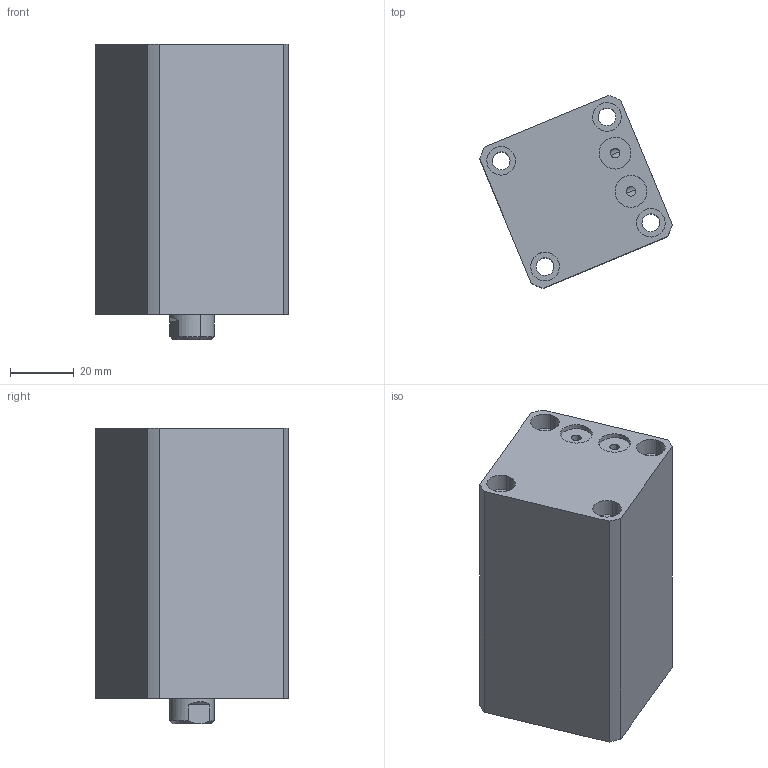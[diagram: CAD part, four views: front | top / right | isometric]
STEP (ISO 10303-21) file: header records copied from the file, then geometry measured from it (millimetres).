
FILE_DESCRIPTION (( 'STEP AP214' ), '1' );
FILE_NAME ('chtb-sdmb25x40n_asm.STEP', '2018-05-24T01:37:14', ( 'Windows' ), ( 'Microsoft' ), 'SwSTEP 2.0', 'SolidWorks 2015', '' );
FILE_SCHEMA (( 'AUTOMOTIVE_DESIGN' ));
Length unit declared in the file: millimetre
Products named in the file (4): chtb-sdmb25x40n_asm; CHTB-SDMB25X40NHSG; CHTB-SDMB25X40NBT; CHTB-25QG
Assembly tree (3 placements, depth 2):
  chtb-sdmb25x40n_asm
    CHTB-25QG
    CHTB-SDMB25X40NBT
    CHTB-SDMB25X40NHSG
Bounding box: 60.55 x 60.55 x 93 mm (x, y, z)
Volume: 168640.9 mm3; surface area: 45316 mm2
Topology: 3 solids, 3 shells, 142 faces, 379 edges, 257 vertices
Faces by surface type: cylinder 89, plane 34, bspline 10, cone 9
Entity records: 8024 total; most frequent: CARTESIAN_POINT 4397, ORIENTED_EDGE 746, DIRECTION 661, EDGE_CURVE 373, AXIS2_PLACEMENT_3D 272, VERTEX_POINT 257, EDGE_LOOP 180, ADVANCED_FACE 142
